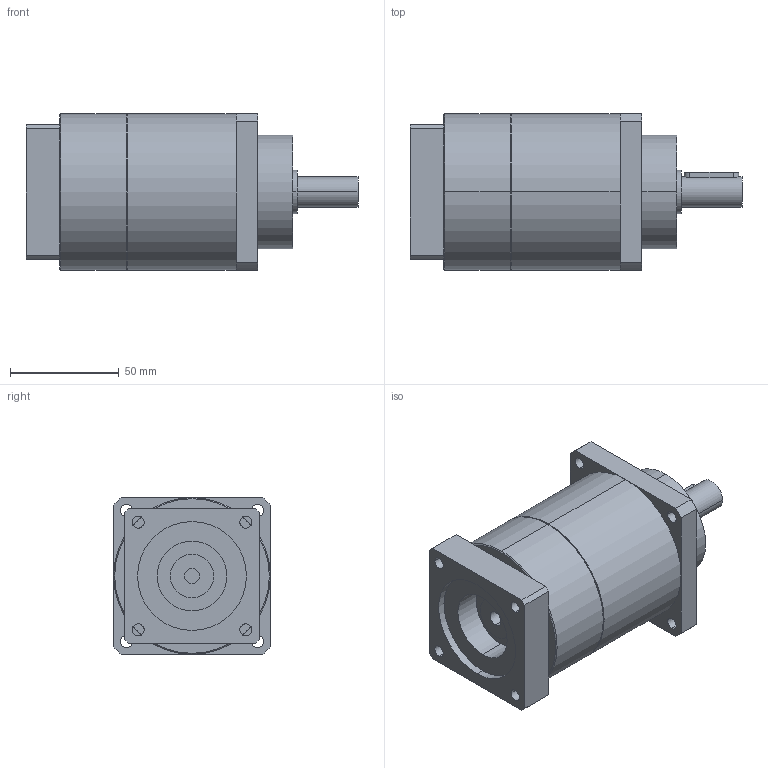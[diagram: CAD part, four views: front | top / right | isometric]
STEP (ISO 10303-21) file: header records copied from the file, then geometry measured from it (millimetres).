
FILE_DESCRIPTION(('CoCreate Modeling STEP Export'),'2;1');
FILE_NAME('GPT75_ig-9-12-16-20-25-28-35-40-50-70-100_14_B5T_7_P23.stp','2014-08-27T13:41:06',(''),(''),'CoCreate Modeling STEP processor for AP214 (Solid Model)','CoCreate Modeling 16.00C 25-Feb-2009 (C) Parametric Technology GmbH','');
FILE_SCHEMA(('AUTOMOTIVE_DESIGN { 1 0 10303 214 1 1 1 1 }'));
Length unit declared in the file: millimetre
Products named in the file (2): GPT75_ig-9-12-16-20-25-28-35-40-50-70-100_14_B5T_7_P23
Assembly tree (1 placements, depth 2):
  GPT75_ig-9-12-16-20-25-28-35-40-50-70-100_14_B5T_7_P23
    GPT75_ig-9-12-16-20-25-28-35-40-50-70-100_14_B5T_7_P23
Bounding box: 152.5 x 72 x 72 mm (x, y, z)
Volume: 460668.9 mm3; surface area: 44370.4 mm2
Topology: 1 solids, 1 shells, 88 faces, 226 edges, 145 vertices
Faces by surface type: cylinder 46, plane 38, cone 4
Entity records: 2676 total; most frequent: CARTESIAN_POINT 744, ORIENTED_EDGE 452, DIRECTION 334, EDGE_CURVE 226, VERTEX_POINT 145, AXIS2_PLACEMENT_3D 123, EDGE_LOOP 109, VECTOR 88
